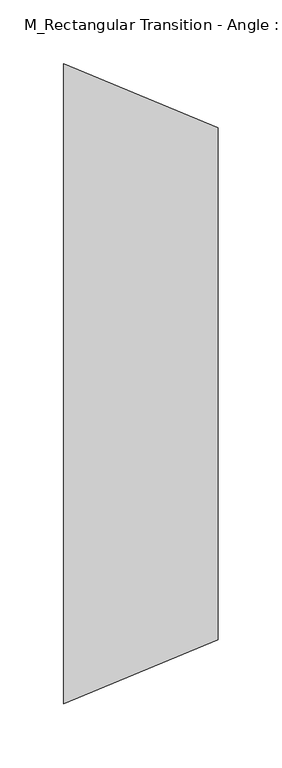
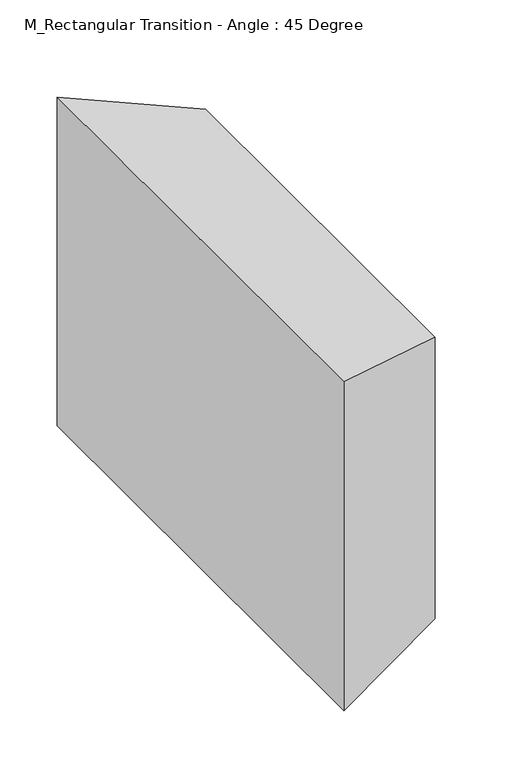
"""IFC4 building model written with IfcOpenShell, lengths in millimetres: duct fitting geometry, M_Rectangular Transition - Angle : 45 Degree."""

from ifc_helpers import new_model, si_unit, origin, place, context, project, spatial, faceted_brep, source, transform, mapped, element, save


def m_rectangular_transition_angle_45_degree_cb5c35f2(model_context):
    return source(origin(), model_context, "Body", "Brep", [
        faceted_brep([(120.7106781, -200.0, 150.0), (120.7106781, -200.0, -150.0), (120.7106781, 200.0, -150.0), (120.7106781, 200.0, 150.0), (0.0, -250.0, 175.0), (0.0, 250.0, 175.0), (0.0, 250.0, -175.0), (0.0, -250.0, -175.0)], [[[0, 1, 2, 3]], [[4, 5, 6, 7]], [[4, 7, 1, 0]], [[7, 6, 2, 1]], [[6, 5, 3, 2]], [[5, 4, 0, 3]]]),
    ])


if __name__ == "__main__":
    model = new_model("IFC4")
    model_context = context("Model", 3, world=origin())
    ifc_project = project(units=[si_unit("LENGTHUNIT", "METRE", prefix="MILLI")], contexts=[model_context])
    site = spatial("IfcSite", under=ifc_project)
    building = spatial("IfcBuilding", under=site)
    placement = place(None, origin())
    m_rectangular_transition_angle_45_degree_shape = m_rectangular_transition_angle_45_degree_cb5c35f2(model_context)
    element("IfcDuctFitting", 1, ObjectType="M_Rectangular Transition - Angle : 45 Degree", at=placement, inside=building, context=model_context, shape_type="MappedRepresentation", body=[
        mapped(m_rectangular_transition_angle_45_degree_shape, transform((0.0, 0.0, 0.0), x_axis=(1.0, 0.0, 0.0), y_axis=(0.0, 1.0, 0.0), z_axis=(0.0, 0.0, 1.0))),
    ])
    save(model, "model.ifc")
